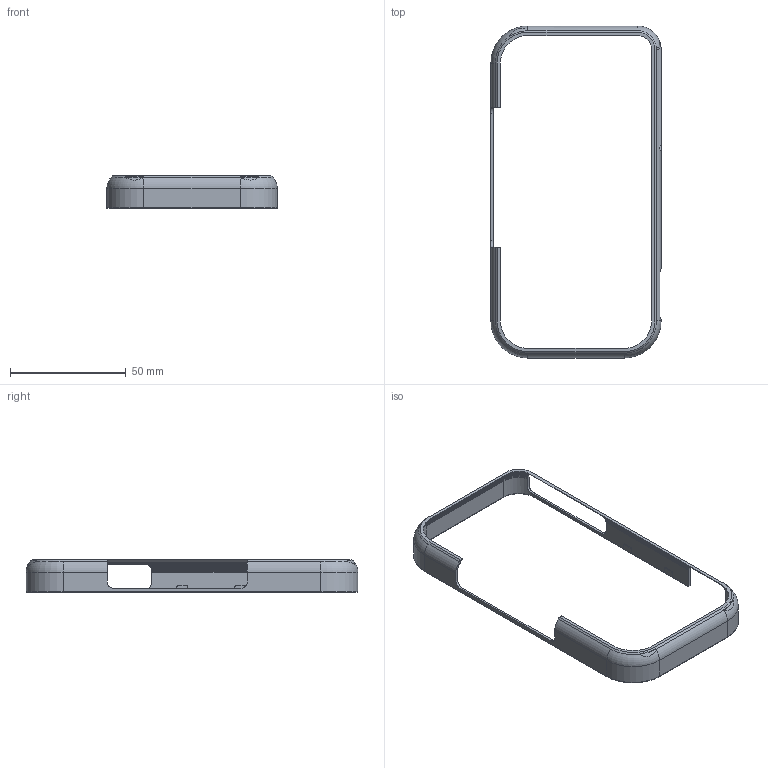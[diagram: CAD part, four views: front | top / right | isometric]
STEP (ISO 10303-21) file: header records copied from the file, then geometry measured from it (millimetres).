
FILE_DESCRIPTION(('Open CASCADE Model'),'2;1');
FILE_NAME('Silicone_surround_MASTER','2026-09-21T22:33:49',('Author'),( 'Open CASCADE'),'Open CASCADE STEP processor 7.9','build123d', 'Unknown');
FILE_SCHEMA(('AUTOMOTIVE_DESIGN { 1 0 10303 214 1 1 1 1 }'));
Length unit declared in the file: millimetre
Products named in the file (2): Silicone_surround_MASTER
Assembly tree (1 placements, depth 2):
  Silicone_surround_MASTER
    Silicone_surround_MASTER
Bounding box: 73.5 x 143.25 x 14.2 mm (x, y, z)
Volume: 4534.8 mm3; surface area: 10149.5 mm2
Topology: 1 solids, 1 shells, 343 faces, 846 edges, 507 vertices
Faces by surface type: plane 181, cone 101, cylinder 48, torus 11, revolution 2
Entity records: 10231 total; most frequent: CARTESIAN_POINT 2361, ORIENTED_EDGE 1692, DIRECTION 1578, EDGE_CURVE 846, AXIS2_PLACEMENT_3D 615, VERTEX_POINT 507, FACE_BOUND 349, EDGE_LOOP 349
